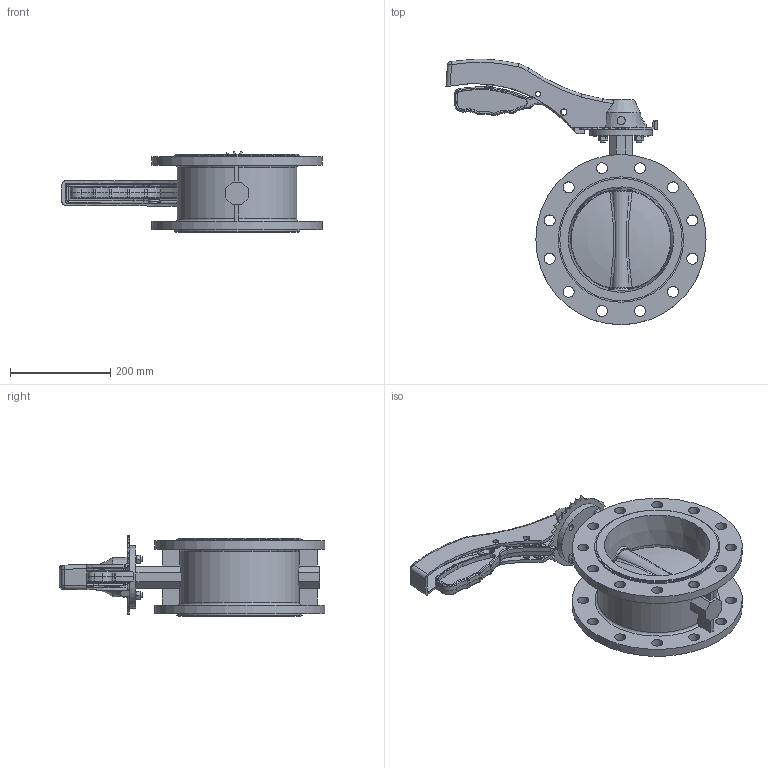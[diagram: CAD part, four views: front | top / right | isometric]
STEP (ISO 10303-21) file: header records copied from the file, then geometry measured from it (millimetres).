
FILE_DESCRIPTION (( 'STEP AP214' ), '1' );
FILE_NAME ('忒梟 邧楊擘評概 Fig.3226-204B-200-16.STEP', '2026-03-20T01:40:36', ( '' ), ( '' ), 'SwSTEP 2.0', 'SolidWorks 2024', '' );
FILE_SCHEMA (( 'AUTOMOTIVE_DESIGN' ));
Length unit declared in the file: millimetre
Products named in the file (1): 手柄 双法兰蝶阀 Fig.3226-204B-200-16
Bounding box: 519.51 x 530.32 x 161.07 mm (x, y, z)
Volume: 4911866 mm3; surface area: 764485 mm2
Topology: 1 solids, 5 shells, 1148 faces, 3221 edges, 2130 vertices
Faces by surface type: plane 755, cylinder 169, bspline 136, cone 72, torus 16
Full cylindrical faces by diameter (mm): 10 x4, 10.2 x1, 10.71 x3, 12 x4, 12.648 x2, 14.362 x2, 16.32 x1, 17.8 x2, 22 x24, 22.3 x2, 39.984 x1, 40.8 x1, 70 x1, 125 x1, 244.4 x2, 250.4 x2, 340 x2
Entity records: 61446 total; most frequent: CARTESIAN_POINT 21551, ORIENTED_EDGE 6196, DIRECTION 4641, EDGE_CURVE 3098, VERTEX_POINT 2081, VECTOR 2003, LINE 2003, EDGE_LOOP 1341
